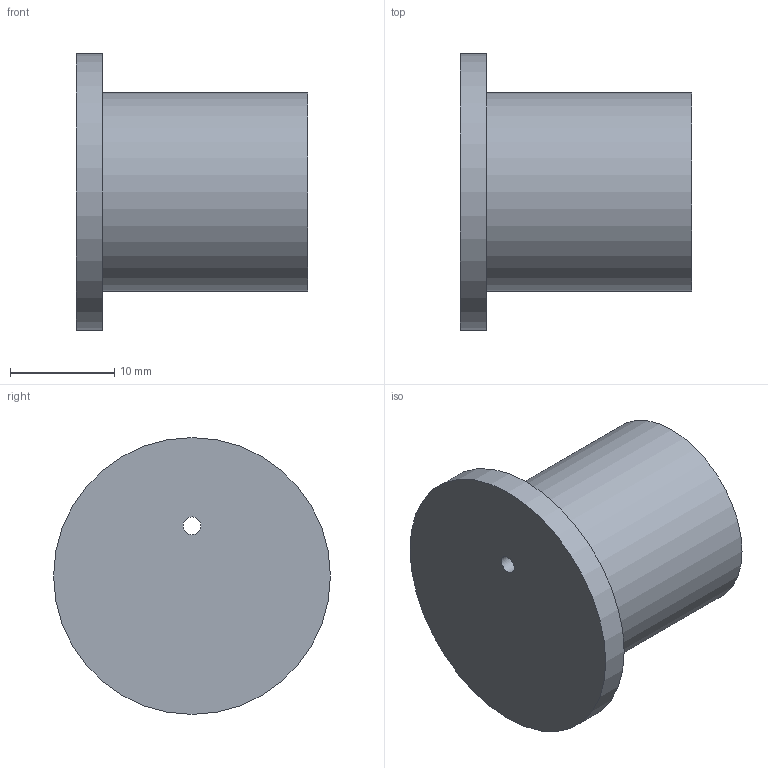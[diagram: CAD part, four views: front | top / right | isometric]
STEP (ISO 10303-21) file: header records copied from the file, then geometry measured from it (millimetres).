
FILE_DESCRIPTION( ('This file contains a STEP AP42 implementation' ,'as created by ZW3D STEP Interface translator.') ,'2;1' );
FILE_NAME( 'OGW-19.stp' ,'26 519. 73421', (''), ('ZWCAD Software Co.'), 'Version 1.0', 'ZW3D to STEP translator', '' );
FILE_SCHEMA(('AP242_MANAGED_MODEL_BASED_3D_ENGINEERING_MIM_LF { 1 0 10303 442 1 1 4 }'));
Length unit declared in the file: millimetre
Products named in the file (1): 0
Bounding box: 22.2 x 26.5 x 26.5 mm (x, y, z)
Volume: 2746.4 mm3; surface area: 3517.1 mm2
Topology: 1 solids, 1 shells, 8 faces, 12 edges, 8 vertices
Faces by surface type: cylinder 4, plane 4
Full cylindrical faces by diameter (mm): 1.7 x1, 16.5 x1, 19 x1, 26.5 x1
Entity records: 216 total; most frequent: DIRECTION 38, CARTESIAN_POINT 29, ORIENTED_EDGE 24, AXIS2_PLACEMENT_3D 17, EDGE_CURVE 12, EDGE_LOOP 12, VERTEX_POINT 8, CIRCLE 8
